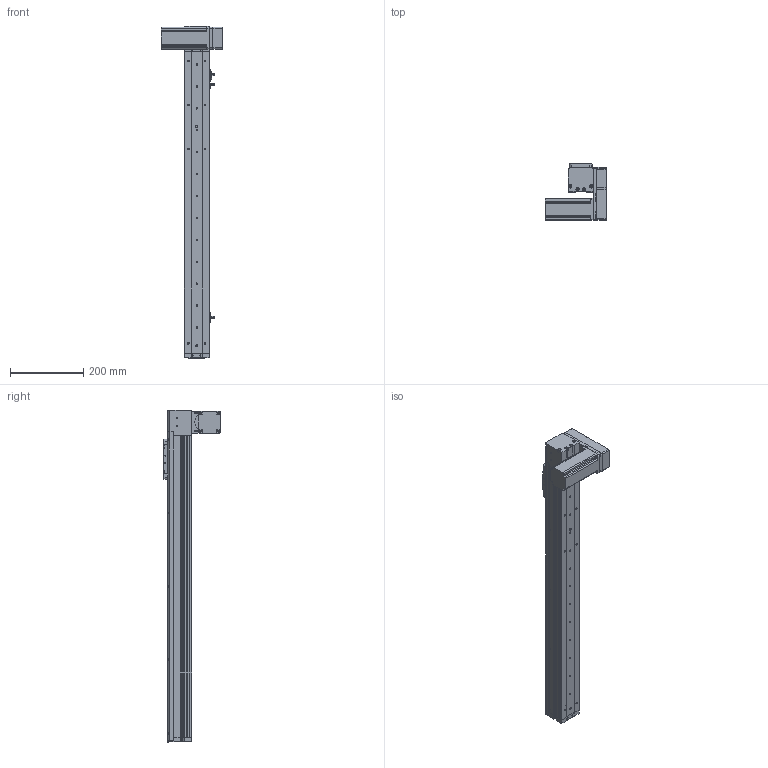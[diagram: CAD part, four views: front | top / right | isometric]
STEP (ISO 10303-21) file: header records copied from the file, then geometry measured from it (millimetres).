
FILE_DESCRIPTION (( 'STEP AP214' ), '1' );
FILE_NAME ('KSD68BS-S650-MLD-CR.STEP', '2019-11-07T05:35:12', ( '微软用户' ), ( '微软中国' ), 'SwSTEP 2.0', 'SolidWorks 2014', '' );
FILE_SCHEMA (( 'AUTOMOTIVE_DESIGN' ));
Length unit declared in the file: millimetre
Products named in the file (14): 68宽单导轨全封闭丝杆传动安装板1防护罩; KSD68BS 650行程盖板全封闭; KSD68BS 650行程侧板全封闭; 68宽单导轨全封闭同步带端板; 68单导轨全封闭同步带电机座左; 68遵裔啣揤啣1; 68单导轨全封闭同步带安装板; 悵誘欶奻狟殏; 68宽马达安装板连板上折同步带; 感应片68宽全封闭; U倰嫖萇EEㄜSX672; 台达ECMA－C20604AS伺服电机（400W); KSD68BS 650行程底板全封闭; KSD68BS-S650-MLD-CR
Assembly tree (17 placements, depth 2):
  KSD68BS-S650-MLD-CR
    KSD68BS 650行程底板全封闭
    台达ECMA－C20604AS伺服电机（400W)
    U倰嫖萇EEㄜSX672  x3
    感应片68宽全封闭
    68宽马达安装板连板上折同步带
    悵誘欶奻狟殏
    68单导轨全封闭同步带安装板
    68单导轨全封闭同步带电机座左
    68宽单导轨全封闭同步带端板
    KSD68BS 650行程侧板全封闭  x2
    68宽单导轨全封闭丝杆传动安装板1防护罩
    68遵裔啣揤啣1  x2
    KSD68BS 650行程盖板全封闭
Bounding box: 167.2 x 155.5 x 908.1 mm (x, y, z)
Volume: 2065790.1 mm3; surface area: 748876 mm2
Topology: 18 solids, 18 shells, 1405 faces, 3939 edges, 2534 vertices
Faces by surface type: cylinder 644, plane 625, cone 136
Entity records: 43339 total; most frequent: CARTESIAN_POINT 7287, DIRECTION 6544, ORIENTED_EDGE 6254, EDGE_CURVE 3127, AXIS2_PLACEMENT_3D 2335, VERTEX_POINT 2052, VECTOR 1874, LINE 1874
